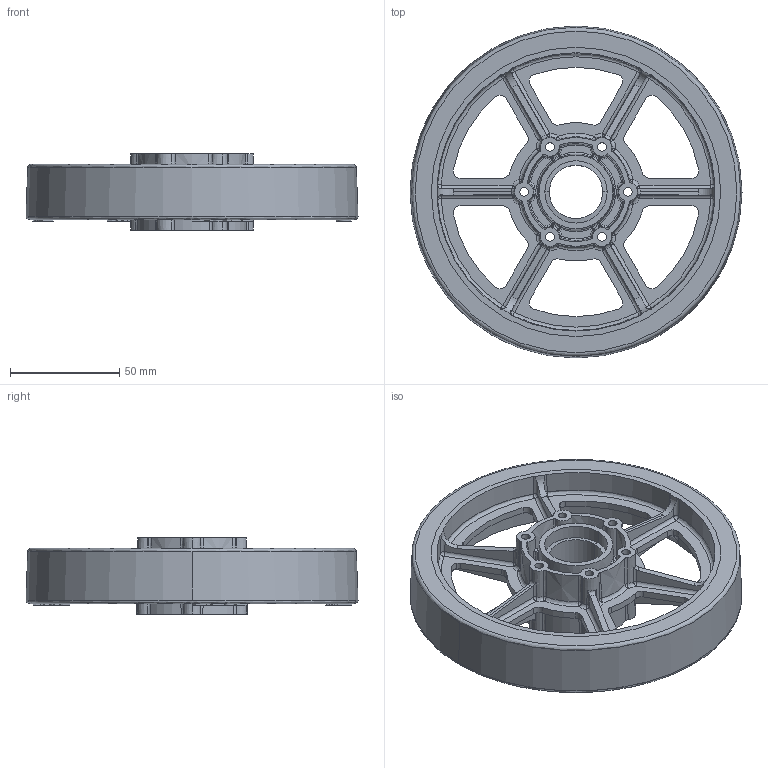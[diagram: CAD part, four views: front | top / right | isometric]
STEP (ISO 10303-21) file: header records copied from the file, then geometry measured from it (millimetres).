
FILE_DESCRIPTION((''),'2;1');
FILE_NAME('C:\Documents and Settings\Owner\Desktop\FirstCadLibrary Transfer\AM 6in FirstWheel.stp','2008-01-03T22:07:07',('Owner'),(''),'Autodesk Inventor (R) 6.0','Autodesk Inventor (R) 6.0','');
FILE_SCHEMA(('AUTOMOTIVE_DESIGN { 1 0 10303 214 1 1 1 1 }'));
Length unit declared in the file: millimetre
Products named in the file (3): AM 6in FirstWheel; 6 wheel; 6 wheel tread with letters
Assembly tree (2 placements, depth 2):
  AM 6in FirstWheel
    6 wheel
    6 wheel tread with letters
Bounding box: 152.29 x 152.29 x 34.92 mm (x, y, z)
Volume: 197563.7 mm3; surface area: 99217.7 mm2
Topology: 2 solids, 2 shells, 3518 faces, 8692 edges, 5093 vertices
Faces by surface type: cylinder 1509, bspline 1147, plane 612, cone 134, sphere 116
Entity records: 183392 total; most frequent: CARTESIAN_POINT 106336, ORIENTED_EDGE 17152, DIRECTION 15518, EDGE_CURVE 8576, AXIS2_PLACEMENT_3D 6494, VERTEX_POINT 5093, CIRCLE 3998, EDGE_LOOP 3577
